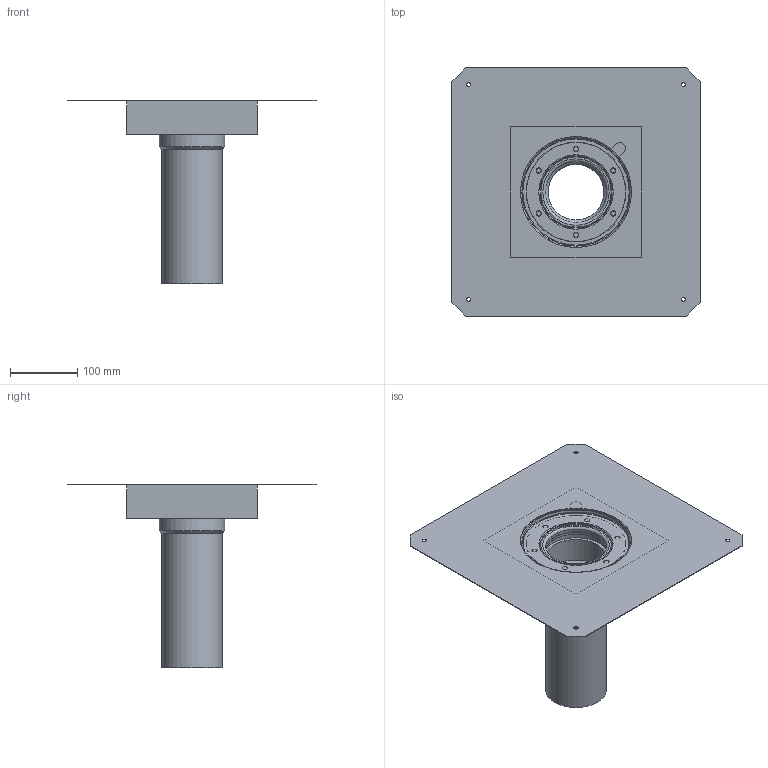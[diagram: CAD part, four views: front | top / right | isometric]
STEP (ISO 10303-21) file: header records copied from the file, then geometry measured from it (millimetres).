
FILE_DESCRIPTION(/* description */ (''),/* implementation_level */ '2;1');
FILE_NAME(/* name */ 'H:\Geberit-Teile\Export\359.102.00.1\stp\359102.stp',/* time_stamp */ '2016-06-02T08:57:42+02:00',/* author */ ('seihe2'),/* organization */ (''),/* preprocessor_version */ 'ST-DEVELOPER v15.2',/* originating_system */ 'Autodesk Inventor 2014',/* authorisation */ '');
FILE_SCHEMA (('AUTOMOTIVE_DESIGN { 1 0 10303 214 3 1 1 }'));
Length unit declared in the file: millimetre
Products named in the file (1): 359102
Bounding box: 370 x 370 x 273.5 mm (x, y, z)
Volume: 1713238.6 mm3; surface area: 614829.3 mm2
Topology: 5 solids, 5 shells, 366 faces, 867 edges, 572 vertices
Faces by surface type: cylinder 209, plane 136, torus 13, cone 8
Full cylindrical faces by diameter (mm): 4.7 x6, 6 x10, 7 x12, 8 x12, 8.5 x6, 9 x1, 83.02 x1, 90.38 x1, 90.9 x2, 91 x1, 93 x1, 95.4 x1, 97.3 x1, 98.25 x1, 100.2 x1, 107.55 x1, 108 x1, 110 x2, 111 x1, 146 x1, 148 x2, 148.5 x1
Entity records: 10787 total; most frequent: DIRECTION 1960, CARTESIAN_POINT 1716, ORIENTED_EDGE 1554, AXIS2_PLACEMENT_3D 819, EDGE_CURVE 777, VERTEX_POINT 569, EDGE_LOOP 566, CIRCLE 453
